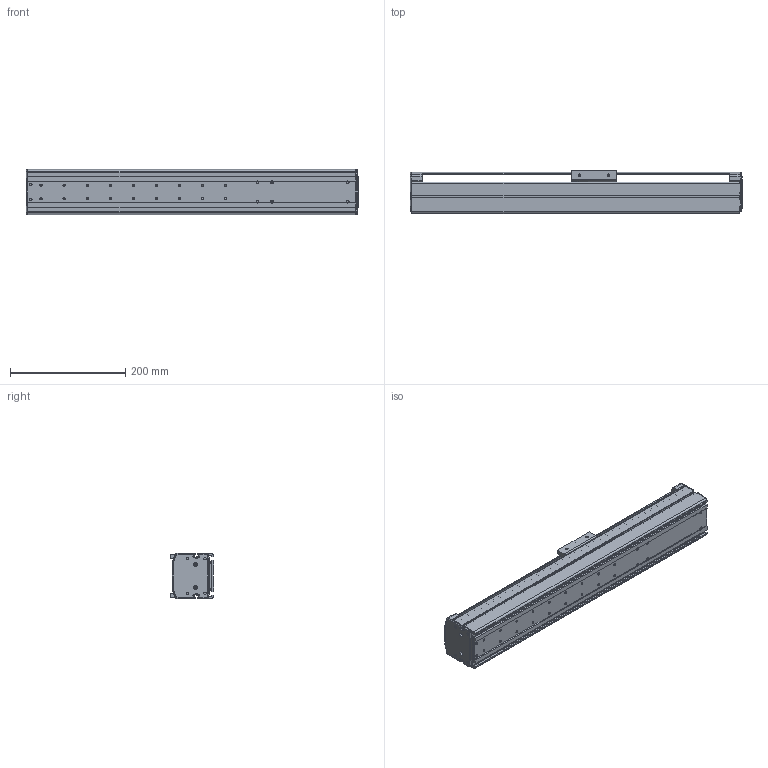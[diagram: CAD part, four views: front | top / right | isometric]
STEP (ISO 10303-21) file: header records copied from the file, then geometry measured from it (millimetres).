
FILE_DESCRIPTION((''),'2;1');
FILE_NAME('BE10E-ST-S_N-25_IGS_PRT','2017-06-17T',(' '),(''),'PRO/ENGINEER BY PARAMETRIC TECHNOLOGY CORPORATION, 2015030','PRO/ENGINEER BY PARAMETRIC TECHNOLOGY CORPORATION, 2015030','');
FILE_SCHEMA(('CONFIG_CONTROL_DESIGN'));
Length unit declared in the file: millimetre
Products named in the file (1): BE10E-ST-S_N-25_IGS_PRT
Bounding box: 575 x 75 x 78 mm (x, y, z)
Volume: 703452.9 mm3; surface area: 463114.1 mm2
Topology: 2 solids, 53 shells, 1090 faces, 2913 edges, 1877 vertices
Faces by surface type: cylinder 516, plane 421, torus 66, sphere 42, cone 38, bspline 7
Entity records: 35095 total; most frequent: CARTESIAN_POINT 7194, DIRECTION 6052, ORIENTED_EDGE 5592, EDGE_CURVE 2895, AXIS2_PLACEMENT_3D 2255, VERTEX_POINT 1877, VECTOR 1542, LINE 1542
